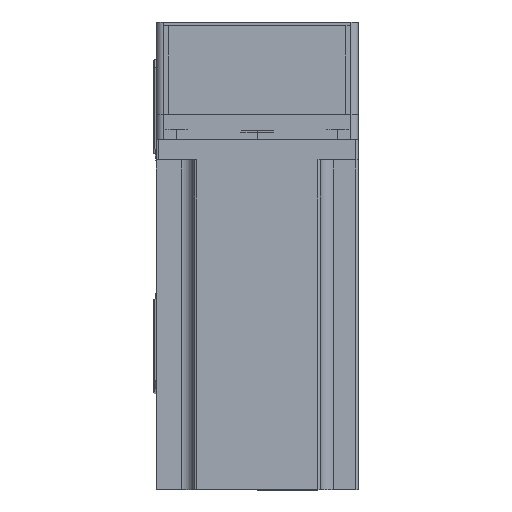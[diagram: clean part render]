
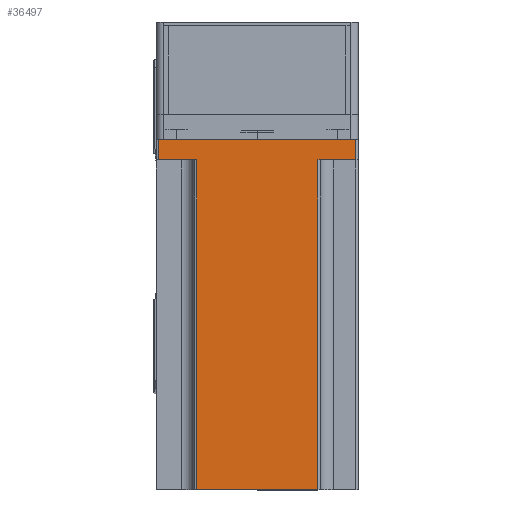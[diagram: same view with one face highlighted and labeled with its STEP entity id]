
A CAD part, top view. The second image highlights one B-rep face of the part: STEP entity #36497.
In plain terms, the highlighted planar face has unit normal (0, 0, 1) as drawn and (0, 1, 0) by its records, which use the part's own axes.
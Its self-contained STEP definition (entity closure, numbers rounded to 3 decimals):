
#505 = CARTESIAN_POINT ( 'NONE',  ( 39., 40., 8. ) ) ;
#571 = DIRECTION ( 'NONE',  ( 0., 0., 1. ) ) ;
#717 = EDGE_LOOP ( 'NONE', ( #4189, #18637, #40032, #28707, #41967, #29750, #13240, #13730 ) ) ;
#1069 = LINE ( 'NONE', #25028, #10597 ) ;
#2510 = LINE ( 'NONE', #42206, #22786 ) ;
#4189 = ORIENTED_EDGE ( 'NONE', *, *, #41133, .T. ) ;
#4301 = VECTOR ( 'NONE', #48690, 1000. ) ;
#4559 = DIRECTION ( 'NONE',  ( 0., 0., -1. ) ) ;
#6498 = EDGE_CURVE ( 'NONE', #38267, #41012, #47475, .T. ) ;
#6899 = VERTEX_POINT ( 'NONE', #7285 ) ;
#7139 = CARTESIAN_POINT ( 'NONE',  ( 24., 40., 138.3 ) ) ;
#7190 = VERTEX_POINT ( 'NONE', #34131 ) ;
#7285 = CARTESIAN_POINT ( 'NONE',  ( -24., 40., 8. ) ) ;
#7470 = LINE ( 'NONE', #25062, #27840 ) ;
#8396 = LINE ( 'NONE', #28892, #39508 ) ;
#9129 = DIRECTION ( 'NONE',  ( -1., 0., 0. ) ) ;
#10022 = VECTOR ( 'NONE', #50408, 1000. ) ;
#10597 = VECTOR ( 'NONE', #571, 1000. ) ;
#11492 = CARTESIAN_POINT ( 'NONE',  ( 40., 40., 138.3 ) ) ;
#13240 = ORIENTED_EDGE ( 'NONE', *, *, #33958, .T. ) ;
#13730 = ORIENTED_EDGE ( 'NONE', *, *, #52606, .T. ) ;
#14148 = VECTOR ( 'NONE', #20294, 1000. ) ;
#15594 = DIRECTION ( 'NONE',  ( 1., 0., 0. ) ) ;
#16015 = LINE ( 'NONE', #49587, #37619 ) ;
#18637 = ORIENTED_EDGE ( 'NONE', *, *, #33790, .T. ) ;
#20294 = DIRECTION ( 'NONE',  ( 0., 0., 1. ) ) ;
#22012 = CARTESIAN_POINT ( 'NONE',  ( -25., 40., 8. ) ) ;
#22786 = VECTOR ( 'NONE', #46278, 1000. ) ;
#23021 = CARTESIAN_POINT ( 'NONE',  ( 24., 40., 8. ) ) ;
#23580 = EDGE_CURVE ( 'NONE', #52296, #41012, #7470, .T. ) ;
#24013 = CARTESIAN_POINT ( 'NONE',  ( -24., 40., 138.3 ) ) ;
#25028 = CARTESIAN_POINT ( 'NONE',  ( -39., 40., 138.3 ) ) ;
#25062 = CARTESIAN_POINT ( 'NONE',  ( 24., 40., 138.3 ) ) ;
#27840 = VECTOR ( 'NONE', #29197, 1000. ) ;
#28707 = ORIENTED_EDGE ( 'NONE', *, *, #23580, .T. ) ;
#28892 = CARTESIAN_POINT ( 'NONE',  ( 39., 40., 138.3 ) ) ;
#29197 = DIRECTION ( 'NONE',  ( 0., 0., -1. ) ) ;
#29449 = CARTESIAN_POINT ( 'NONE',  ( -24., 40., 138.3 ) ) ;
#29750 = ORIENTED_EDGE ( 'NONE', *, *, #46373, .T. ) ;
#31629 = PLANE ( 'NONE',  #42671 ) ;
#33790 = EDGE_CURVE ( 'NONE', #6899, #51532, #46515, .T. ) ;
#33958 = EDGE_CURVE ( 'NONE', #44298, #7190, #16015, .T. ) ;
#34131 = CARTESIAN_POINT ( 'NONE',  ( -39., 40., 0. ) ) ;
#35328 = CARTESIAN_POINT ( 'NONE',  ( 39., 40., 0. ) ) ;
#36497 = ADVANCED_FACE ( 'NONE', ( #42910 ), #31629, .F. ) ;
#37619 = VECTOR ( 'NONE', #9129, 1000. ) ;
#38267 = VERTEX_POINT ( 'NONE', #505 ) ;
#39508 = VECTOR ( 'NONE', #4559, 1000. ) ;
#39650 = EDGE_CURVE ( 'NONE', #52296, #51532, #2510, .T. ) ;
#39897 = DIRECTION ( 'NONE',  ( 0., -1., 0. ) ) ;
#40032 = ORIENTED_EDGE ( 'NONE', *, *, #39650, .F. ) ;
#41012 = VERTEX_POINT ( 'NONE', #23021 ) ;
#41104 = LINE ( 'NONE', #22012, #10022 ) ;
#41133 = EDGE_CURVE ( 'NONE', #50798, #6899, #41104, .T. ) ;
#41967 = ORIENTED_EDGE ( 'NONE', *, *, #6498, .F. ) ;
#42206 = CARTESIAN_POINT ( 'NONE',  ( 40., 40., 138.3 ) ) ;
#42671 = AXIS2_PLACEMENT_3D ( 'NONE', #11492, #39897, #15594 ) ;
#42910 = FACE_OUTER_BOUND ( 'NONE', #717, .T. ) ;
#44298 = VERTEX_POINT ( 'NONE', #35328 ) ;
#44598 = CARTESIAN_POINT ( 'NONE',  ( 25., 40., 8. ) ) ;
#46278 = DIRECTION ( 'NONE',  ( -1., 0., 0. ) ) ;
#46373 = EDGE_CURVE ( 'NONE', #38267, #44298, #8396, .T. ) ;
#46515 = LINE ( 'NONE', #24013, #14148 ) ;
#47475 = LINE ( 'NONE', #44598, #4301 ) ;
#48690 = DIRECTION ( 'NONE',  ( -1., 0., 0. ) ) ;
#49587 = CARTESIAN_POINT ( 'NONE',  ( 40., 40., 0. ) ) ;
#50408 = DIRECTION ( 'NONE',  ( 1., 0., 0. ) ) ;
#50443 = CARTESIAN_POINT ( 'NONE',  ( -39., 40., 8. ) ) ;
#50798 = VERTEX_POINT ( 'NONE', #50443 ) ;
#51532 = VERTEX_POINT ( 'NONE', #29449 ) ;
#52296 = VERTEX_POINT ( 'NONE', #7139 ) ;
#52606 = EDGE_CURVE ( 'NONE', #7190, #50798, #1069, .T. ) ;
